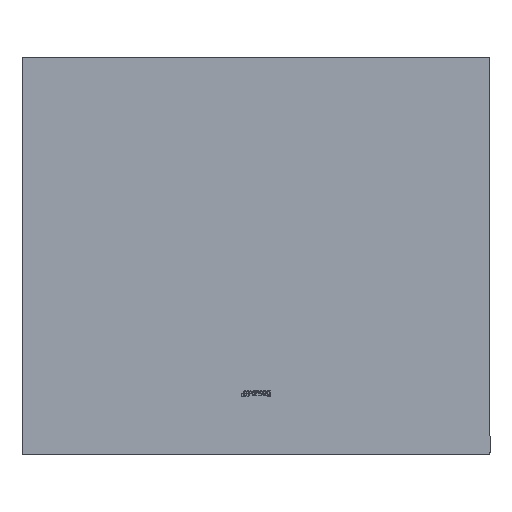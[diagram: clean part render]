
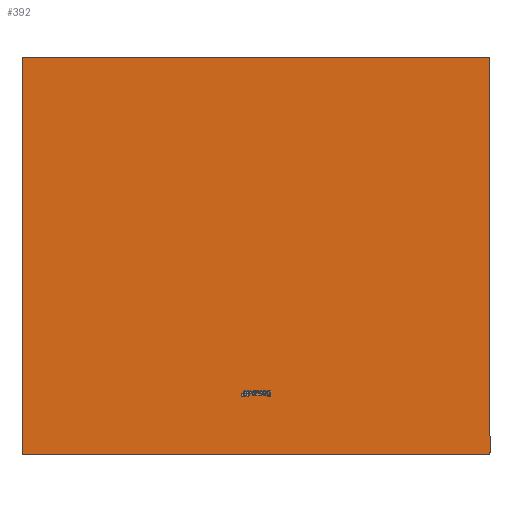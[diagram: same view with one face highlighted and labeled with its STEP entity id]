
A CAD part, top view. The second image highlights one B-rep face of the part: STEP entity #392.
In plain terms, the highlighted planar face has unit normal (0, 0, 1).
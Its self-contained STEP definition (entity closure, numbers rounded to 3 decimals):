
#289=CIRCLE('',#1883,3.);
#290=CIRCLE('',#1884,3.);
#291=CIRCLE('',#1885,3.);
#292=CIRCLE('',#1886,3.);
#392=ADVANCED_FACE('',(#541),#459,.T.);
#459=PLANE('',#1887);
#541=FACE_OUTER_BOUND('',#657,.T.);
#657=EDGE_LOOP('',(#1063,#1064,#1065,#1066,#1067,#1068,#1069,#1070));
#1063=ORIENTED_EDGE('',*,*,#1439,.T.);
#1064=ORIENTED_EDGE('',*,*,#1453,.T.);
#1065=ORIENTED_EDGE('',*,*,#1441,.T.);
#1066=ORIENTED_EDGE('',*,*,#1454,.T.);
#1067=ORIENTED_EDGE('',*,*,#1447,.T.);
#1068=ORIENTED_EDGE('',*,*,#1455,.T.);
#1069=ORIENTED_EDGE('',*,*,#1451,.T.);
#1070=ORIENTED_EDGE('',*,*,#1456,.T.);
#1231=VERTEX_POINT('',#3060);
#1232=VERTEX_POINT('',#3062);
#1233=VERTEX_POINT('',#3066);
#1234=VERTEX_POINT('',#3067);
#1239=VERTEX_POINT('',#3078);
#1240=VERTEX_POINT('',#3080);
#1243=VERTEX_POINT('',#3087);
#1244=VERTEX_POINT('',#3089);
#1439=EDGE_CURVE('',#1232,#1231,#1588,.T.);
#1441=EDGE_CURVE('',#1233,#1234,#1590,.T.);
#1447=EDGE_CURVE('',#1240,#1239,#1596,.T.);
#1451=EDGE_CURVE('',#1244,#1243,#1600,.T.);
#1453=EDGE_CURVE('',#1231,#1233,#289,.T.);
#1454=EDGE_CURVE('',#1234,#1240,#290,.T.);
#1455=EDGE_CURVE('',#1239,#1244,#291,.T.);
#1456=EDGE_CURVE('',#1243,#1232,#292,.T.);
#1588=LINE('',#3061,#1740);
#1590=LINE('',#3065,#1742);
#1596=LINE('',#3079,#1748);
#1600=LINE('',#3088,#1752);
#1740=VECTOR('',#2285,1.);
#1742=VECTOR('',#2289,1.);
#1748=VECTOR('',#2297,1.);
#1752=VECTOR('',#2303,1.);
#1883=AXIS2_PLACEMENT_3D('',#3092,#2307,#2308);
#1884=AXIS2_PLACEMENT_3D('',#3093,#2309,#2310);
#1885=AXIS2_PLACEMENT_3D('',#3094,#2311,#2312);
#1886=AXIS2_PLACEMENT_3D('',#3095,#2313,#2314);
#1887=AXIS2_PLACEMENT_3D('',#3096,#2315,#2316);
#2285=DIRECTION('',(0.,-1.,0.));
#2289=DIRECTION('',(1.,0.,0.));
#2297=DIRECTION('',(0.,1.,0.));
#2303=DIRECTION('',(-1.,0.,0.));
#2307=DIRECTION('',(0.,0.,1.));
#2308=DIRECTION('',(1.,0.,0.));
#2309=DIRECTION('',(0.,0.,1.));
#2310=DIRECTION('',(1.,0.,0.));
#2311=DIRECTION('',(0.,0.,1.));
#2312=DIRECTION('',(1.,0.,0.));
#2313=DIRECTION('',(0.,0.,1.));
#2314=DIRECTION('',(1.,0.,0.));
#2315=DIRECTION('',(0.,0.,1.));
#2316=DIRECTION('',(1.,0.,0.));
#3060=CARTESIAN_POINT('',(-289.56,-27.158,4.));
#3061=CARTESIAN_POINT('',(-289.56,479.842,4.));
#3062=CARTESIAN_POINT('',(-289.56,476.842,4.));
#3065=CARTESIAN_POINT('',(-289.56,-30.158,4.));
#3066=CARTESIAN_POINT('',(-286.56,-30.158,4.));
#3067=CARTESIAN_POINT('',(307.44,-30.158,4.));
#3078=CARTESIAN_POINT('',(310.44,476.842,4.));
#3079=CARTESIAN_POINT('',(310.44,-30.158,4.));
#3080=CARTESIAN_POINT('',(310.44,-27.158,4.));
#3087=CARTESIAN_POINT('',(-286.56,479.842,4.));
#3088=CARTESIAN_POINT('',(310.44,479.842,4.));
#3089=CARTESIAN_POINT('',(307.44,479.842,4.));
#3092=CARTESIAN_POINT('',(-286.56,-27.158,4.));
#3093=CARTESIAN_POINT('',(307.44,-27.158,4.));
#3094=CARTESIAN_POINT('',(307.44,476.842,4.));
#3095=CARTESIAN_POINT('',(-286.56,476.842,4.));
#3096=CARTESIAN_POINT('',(10.44,-30.158,4.));
